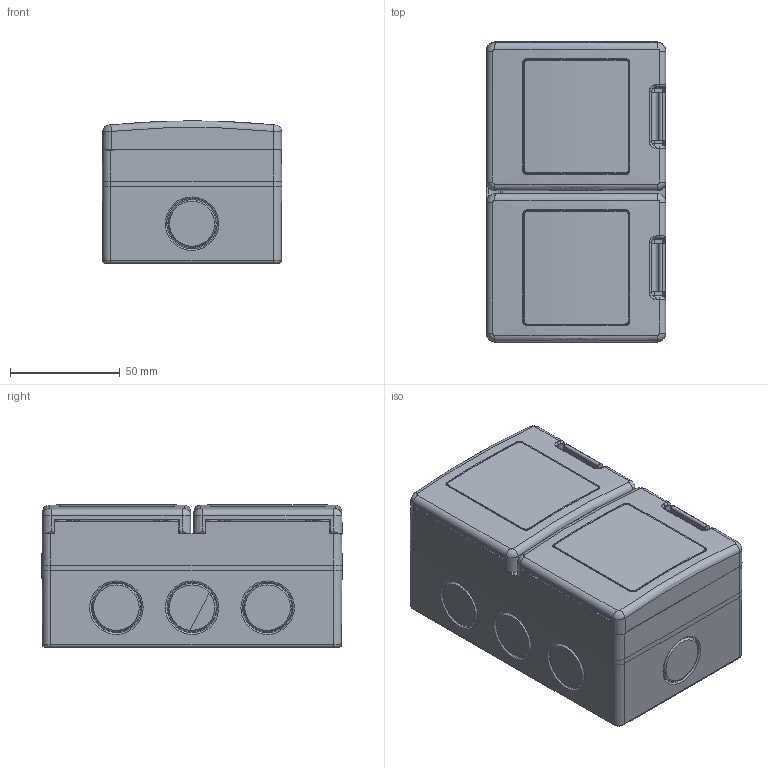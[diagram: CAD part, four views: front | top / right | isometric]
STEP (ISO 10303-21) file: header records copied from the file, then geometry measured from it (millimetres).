
FILE_DESCRIPTION(/* description */ (''),/* implementation_level */ '2;1');
FILE_NAME(/* name */ '4010823.stp',/* time_stamp */ '2019-11-14T08:57:51+01:00',/* author */ (''),/* organization */ (''),/* preprocessor_version */ 'ST-DEVELOPER v16.7',/* originating_system */ 'SIEMENS PLM Software NX 1888',/* authorisation */ '');
FILE_SCHEMA (('AUTOMOTIVE_DESIGN { 1 0 10303 214 3 1 1 1 }'));
Products named in the file (1): BSOM2A707EBAygdy
Bounding box: 82 x 137 x 64.91 mm (x, y, z)
Volume: 151356.6 mm3; surface area: 200981.1 mm2
Topology: 7 solids, 7 shells, 2399 faces, 6451 edges, 4193 vertices
Faces by surface type: plane 1402, cylinder 479, cone 299, bspline 168, torus 51
Full cylindrical faces by diameter (mm): 2 x6, 2.2 x10, 2.6 x4, 2.8 x4, 3 x4, 3.1 x4, 3.5 x8, 4 x4, 4.4 x4, 5.1 x8, 5.3 x8, 7 x4, 7.2 x4, 9.2 x4, 12 x4, 23 x11
Entity records: 86435 total; most frequent: CARTESIAN_POINT 27533, ORIENTED_EDGE 12340, DIRECTION 11831, EDGE_CURVE 6170, VERTEX_POINT 4093, LINE 4037, VECTOR 4037, AXIS2_PLACEMENT_3D 3897
